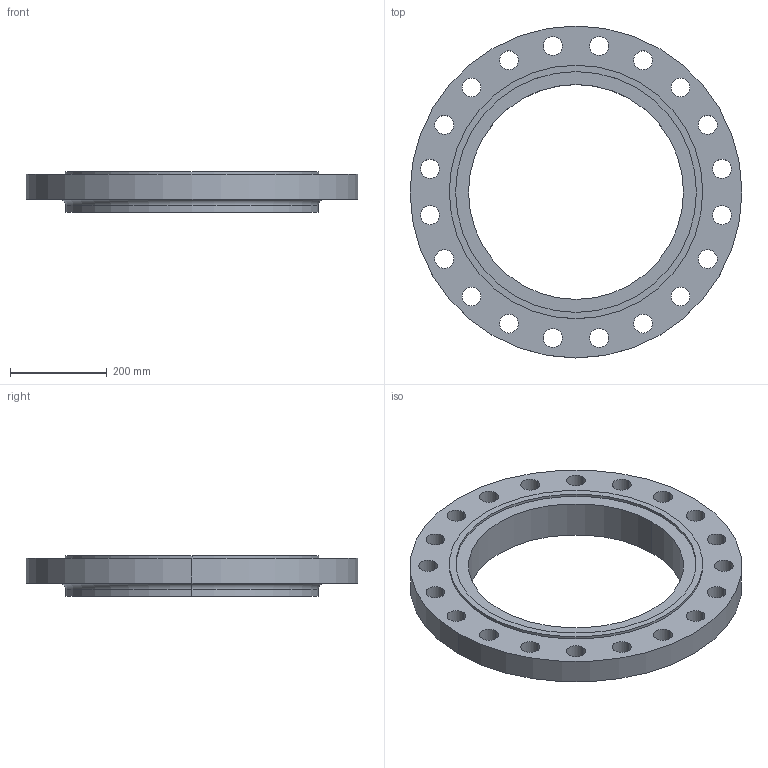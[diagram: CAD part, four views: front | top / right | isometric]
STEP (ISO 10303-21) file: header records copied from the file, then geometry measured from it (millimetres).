
FILE_DESCRIPTION (( 'STEP AP214' ), '1' );
FILE_NAME ('PN40 DN450 Type 13 - Type C Face.STEP', '2018-12-29T02:31:35', ( '' ), ( '' ), 'SwSTEP 2.0', 'SolidWorks 2019', '' );
FILE_SCHEMA (( 'AUTOMOTIVE_DESIGN' ));
Length unit declared in the file: millimetre
Products named in the file (1): PN40 DN450 Type 13 - Type C Face
Bounding box: 685 x 685 x 84 mm (x, y, z)
Volume: 11565681.6 mm3; surface area: 780222.9 mm2
Topology: 1 solids, 1 shells, 57 faces, 154 edges, 102 vertices
Faces by surface type: cylinder 50, plane 5, torus 2
Entity records: 1974 total; most frequent: DIRECTION 374, CARTESIAN_POINT 314, ORIENTED_EDGE 308, AXIS2_PLACEMENT_3D 162, EDGE_CURVE 154, CIRCLE 104, VERTEX_POINT 102, EDGE_LOOP 102
